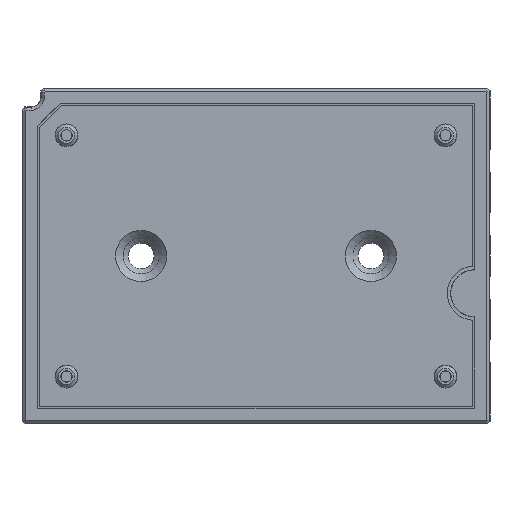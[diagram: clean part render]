
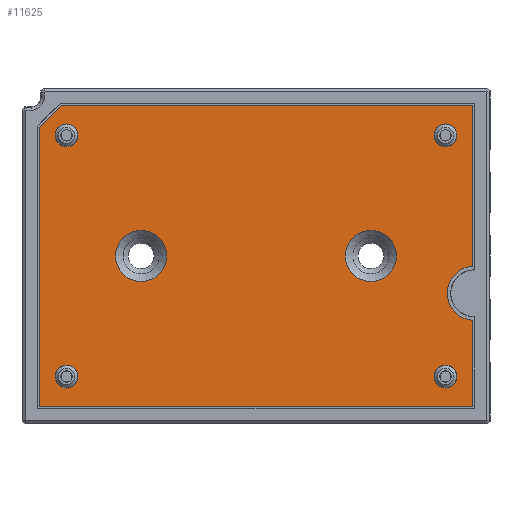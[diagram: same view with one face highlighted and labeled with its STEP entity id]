
A CAD part, top view. The second image highlights one B-rep face of the part: STEP entity #11625.
In plain terms, the highlighted planar face has unit normal (0, 0, 1).
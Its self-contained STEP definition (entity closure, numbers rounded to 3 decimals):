
#919=PLANE('',#12491);
#1244=LINE('',#16898,#1791);
#1245=LINE('',#16900,#1792);
#1246=LINE('',#16902,#1793);
#1247=LINE('',#16904,#1794);
#1248=LINE('',#16906,#1795);
#1249=LINE('',#16908,#1796);
#1791=VECTOR('',#13802,1000.);
#1792=VECTOR('',#13803,1000.);
#1793=VECTOR('',#13804,1000.);
#1794=VECTOR('',#13805,1000.);
#1795=VECTOR('',#13806,1000.);
#1796=VECTOR('',#13807,1000.);
#2356=ORIENTED_EDGE('',*,*,#5898,.T.);
#2357=ORIENTED_EDGE('',*,*,#5878,.T.);
#2358=ORIENTED_EDGE('',*,*,#5899,.T.);
#2359=ORIENTED_EDGE('',*,*,#5900,.T.);
#2360=ORIENTED_EDGE('',*,*,#5901,.T.);
#2361=ORIENTED_EDGE('',*,*,#5902,.T.);
#2362=ORIENTED_EDGE('',*,*,#5903,.T.);
#2363=ORIENTED_EDGE('',*,*,#5893,.F.);
#2364=ORIENTED_EDGE('',*,*,#5897,.F.);
#2365=ORIENTED_EDGE('',*,*,#5895,.F.);
#2366=ORIENTED_EDGE('',*,*,#5891,.F.);
#2367=ORIENTED_EDGE('',*,*,#5884,.T.);
#2368=ORIENTED_EDGE('',*,*,#5882,.T.);
#5878=EDGE_CURVE('',#7649,#7650,#8773,.T.);
#5882=EDGE_CURVE('',#7653,#7653,#8775,.T.);
#5884=EDGE_CURVE('',#7655,#7655,#8777,.T.);
#5891=EDGE_CURVE('',#7662,#7662,#8784,.T.);
#5893=EDGE_CURVE('',#7664,#7664,#8786,.T.);
#5895=EDGE_CURVE('',#7666,#7666,#8788,.T.);
#5897=EDGE_CURVE('',#7668,#7668,#8790,.T.);
#5898=EDGE_CURVE('',#7669,#7649,#1244,.T.);
#5899=EDGE_CURVE('',#7650,#7670,#1245,.T.);
#5900=EDGE_CURVE('',#7670,#7671,#1246,.T.);
#5901=EDGE_CURVE('',#7671,#7672,#1247,.T.);
#5902=EDGE_CURVE('',#7672,#7673,#1248,.T.);
#5903=EDGE_CURVE('',#7673,#7669,#1249,.T.);
#7649=VERTEX_POINT('',#16850);
#7650=VERTEX_POINT('',#16851);
#7653=VERTEX_POINT('',#16859);
#7655=VERTEX_POINT('',#16864);
#7662=VERTEX_POINT('',#16881);
#7664=VERTEX_POINT('',#16886);
#7666=VERTEX_POINT('',#16891);
#7668=VERTEX_POINT('',#16896);
#7669=VERTEX_POINT('',#16899);
#7670=VERTEX_POINT('',#16901);
#7671=VERTEX_POINT('',#16903);
#7672=VERTEX_POINT('',#16905);
#7673=VERTEX_POINT('',#16907);
#8773=CIRCLE('',#12465,4.7);
#8775=CIRCLE('',#12468,4.45);
#8777=CIRCLE('',#12471,4.45);
#8784=CIRCLE('',#12481,2.);
#8786=CIRCLE('',#12484,2.);
#8788=CIRCLE('',#12487,2.);
#8790=CIRCLE('',#12490,2.);
#9446=EDGE_LOOP('',(#2356,#2357,#2358,#2359,#2360,#2361,#2362));
#9447=EDGE_LOOP('',(#2363));
#9448=EDGE_LOOP('',(#2364));
#9449=EDGE_LOOP('',(#2365));
#9450=EDGE_LOOP('',(#2366));
#9451=EDGE_LOOP('',(#2367));
#9452=EDGE_LOOP('',(#2368));
#10453=FACE_BOUND('',#9446,.T.);
#10454=FACE_BOUND('',#9447,.T.);
#10455=FACE_BOUND('',#9448,.T.);
#10456=FACE_BOUND('',#9449,.T.);
#10457=FACE_BOUND('',#9450,.T.);
#10458=FACE_BOUND('',#9451,.T.);
#10459=FACE_BOUND('',#9452,.T.);
#11625=ADVANCED_FACE('',(#10453,#10454,#10455,#10456,#10457,#10458,#10459),
#919,.F.);
#12465=AXIS2_PLACEMENT_3D('',#16849,#13746,#13747);
#12468=AXIS2_PLACEMENT_3D('',#16858,#13754,#13755);
#12471=AXIS2_PLACEMENT_3D('',#16863,#13760,#13761);
#12481=AXIS2_PLACEMENT_3D('',#16880,#13780,#13781);
#12484=AXIS2_PLACEMENT_3D('',#16885,#13786,#13787);
#12487=AXIS2_PLACEMENT_3D('',#16890,#13792,#13793);
#12490=AXIS2_PLACEMENT_3D('',#16895,#13798,#13799);
#12491=AXIS2_PLACEMENT_3D('',#16897,#13800,#13801);
#13746=DIRECTION('',(0.,0.,-1.));
#13747=DIRECTION('',(-1.,0.,0.));
#13754=DIRECTION('',(0.,0.,-1.));
#13755=DIRECTION('',(-1.,0.,0.));
#13760=DIRECTION('',(0.,0.,-1.));
#13761=DIRECTION('',(-1.,0.,0.));
#13780=DIRECTION('',(0.,0.,1.));
#13781=DIRECTION('',(1.,0.,0.));
#13786=DIRECTION('',(0.,0.,1.));
#13787=DIRECTION('',(1.,0.,0.));
#13792=DIRECTION('',(0.,0.,1.));
#13793=DIRECTION('',(1.,0.,0.));
#13798=DIRECTION('',(0.,0.,1.));
#13799=DIRECTION('',(1.,0.,0.));
#13800=DIRECTION('',(0.,0.,-1.));
#13801=DIRECTION('',(0.,-1.,0.));
#13802=DIRECTION('',(0.,1.,0.));
#13803=DIRECTION('',(0.,1.,0.));
#13804=DIRECTION('',(-1.,0.,0.));
#13805=DIRECTION('',(-0.707,-0.707,0.));
#13806=DIRECTION('',(0.,-1.,0.));
#13807=DIRECTION('',(1.,0.,0.));
#16849=CARTESIAN_POINT('',(38.,-6.5,2.));
#16850=CARTESIAN_POINT('',(37.75,-11.193,2.));
#16851=CARTESIAN_POINT('',(37.75,-1.807,2.));
#16858=CARTESIAN_POINT('',(20.,0.,2.));
#16859=CARTESIAN_POINT('',(15.55,0.,2.));
#16863=CARTESIAN_POINT('',(-20.,0.,2.));
#16864=CARTESIAN_POINT('',(-24.45,0.,2.));
#16880=CARTESIAN_POINT('',(-33.,-21.,2.));
#16881=CARTESIAN_POINT('',(-31.,-21.,2.));
#16885=CARTESIAN_POINT('',(33.,-21.,2.));
#16886=CARTESIAN_POINT('',(35.,-21.,2.));
#16890=CARTESIAN_POINT('',(33.,21.,2.));
#16891=CARTESIAN_POINT('',(35.,21.,2.));
#16895=CARTESIAN_POINT('',(-33.,21.,2.));
#16896=CARTESIAN_POINT('',(-31.,21.,2.));
#16897=CARTESIAN_POINT('',(-37.75,-26.25,2.));
#16898=CARTESIAN_POINT('',(37.75,-26.25,2.));
#16899=CARTESIAN_POINT('',(37.75,-26.25,2.));
#16900=CARTESIAN_POINT('',(37.75,-26.25,2.));
#16901=CARTESIAN_POINT('',(37.75,26.25,2.));
#16902=CARTESIAN_POINT('',(-33.85,26.25,2.));
#16903=CARTESIAN_POINT('',(-33.85,26.25,2.));
#16904=CARTESIAN_POINT('',(-37.75,22.35,2.));
#16905=CARTESIAN_POINT('',(-37.75,22.35,2.));
#16906=CARTESIAN_POINT('',(-37.75,-26.25,2.));
#16907=CARTESIAN_POINT('',(-37.75,-26.25,2.));
#16908=CARTESIAN_POINT('',(-37.75,-26.25,2.));
